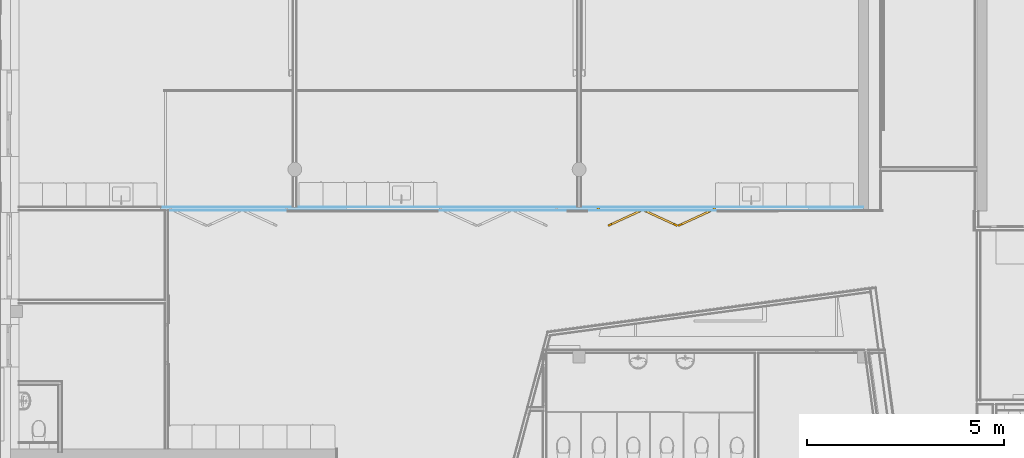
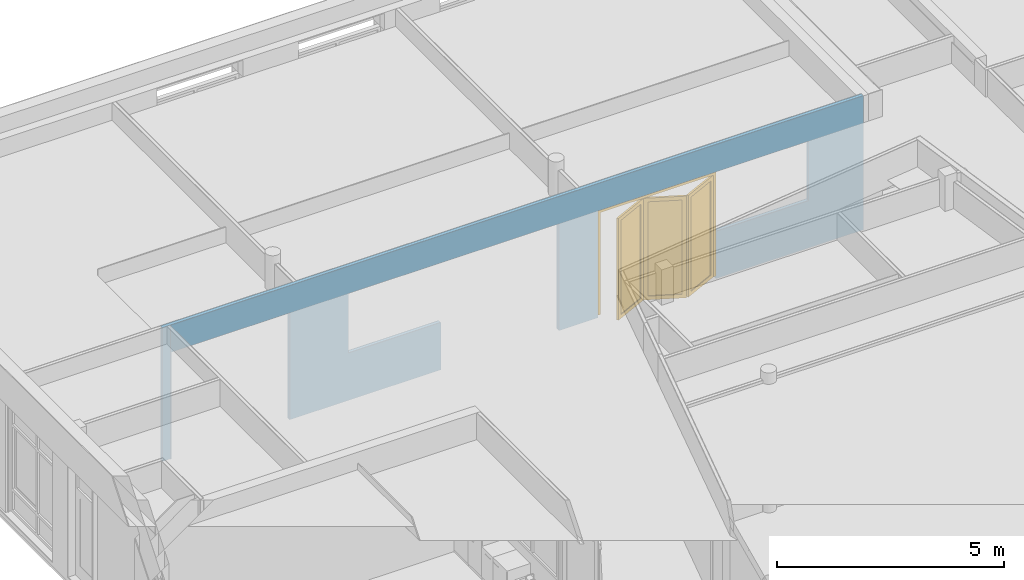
# One storey, part 38 of 167: 1 door, 5 openings, 1 element without a shape of its own, plus 3 elements that do not belong to this part.
"""IFC2X3 building model written with IfcOpenShell, lengths in millimetres."""

from ifc_helpers import new_model, entity, si_unit, converted_unit, derived_unit, money_unit, direction, frame, origin_with_axes, place, context, subcontext, project, spatial, open_shell, faceted_brep, surface_model, source, transform, mapped, material, type_object, type_shapes, element, fill, aggregate, save


model = new_model("IFC2X3")

# Units and contexts
model_context = context("Model", 3, precision=0.01, world=origin_with_axes(), true_north=direction((0.0, 1.0)))
plan_context = context("Plan", 3, precision=0.01, world=origin_with_axes(), true_north=direction((0.0, 1.0)))
body_context = subcontext(model_context, "Body", "Model", "MODEL_VIEW")
ifc_project = project(units=[si_unit("LENGTHUNIT", "METRE", prefix="MILLI"), si_unit("AREAUNIT", "SQUARE_METRE"), si_unit("VOLUMEUNIT", "CUBIC_METRE"), converted_unit("PLANEANGLEUNIT", "DEGREE", entity("IfcPlaneAngleMeasure", 0.0174532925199), si_unit("PLANEANGLEUNIT", "RADIAN"), dimensions=[0, 0, 0, 0, 0, 0, 0]), si_unit("SOLIDANGLEUNIT", "STERADIAN"), money_unit("EUR"), converted_unit("TIMEUNIT", "Year", entity("IfcTimeMeasure", 31556926.0), si_unit("TIMEUNIT", "SECOND"), dimensions=[0, 0, 1, 0, 0, 0, 0]), si_unit("MASSUNIT", "GRAM", prefix="KILO"), si_unit("THERMODYNAMICTEMPERATUREUNIT", "DEGREE_CELSIUS"), si_unit("LUMINOUSINTENSITYUNIT", "LUMEN"), si_unit("ENERGYUNIT", "JOULE", prefix="MEGA"), derived_unit("THERMALCONDUCTANCEUNIT", [(si_unit("POWERUNIT", "WATT"), 1), (si_unit("LENGTHUNIT", "METRE"), -1), (si_unit("THERMODYNAMICTEMPERATUREUNIT", "KELVIN"), -1)]), derived_unit("SPECIFICHEATCAPACITYUNIT", [(si_unit("ENERGYUNIT", "JOULE"), 1), (si_unit("MASSUNIT", "GRAM", prefix="KILO"), -1), (si_unit("THERMODYNAMICTEMPERATUREUNIT", "KELVIN"), -1)]), derived_unit("MASSDENSITYUNIT", [(si_unit("MASSUNIT", "GRAM", prefix="KILO"), 1), (si_unit("VOLUMEUNIT", "CUBIC_METRE"), -1)])], contexts=[model_context, plan_context])

# Site, building, storey
site_placement = place(None, origin_with_axes())
site = spatial("IfcSite", under=ifc_project, at=site_placement, Name="Site", CompositionType="ELEMENT")
building_placement = place(site_placement, origin_with_axes())
building = spatial("IfcBuilding", under=site, at=building_placement, Name="Naam gebouw", CompositionType="ELEMENT")
storey_placement = place(building_placement, origin_with_axes())
storey = spatial("IfcBuildingStorey", under=building, at=storey_placement, Name="Begane grond", CompositionType="ELEMENT", Elevation=0.0)

# Door
door_style = type_object("IfcDoorStyle", Name="DV1 24", ConstructionType="NOTDEFINED", OperationType="FOLDING_TO_RIGHT", ParameterTakesPrecedence=False, Sizeable=False)
shared_shape = source(origin_with_axes(), body_context, "Body", "SurfaceModel", [
    faceted_brep([(-1500.0, 0.0, 0.0), (-1433.0, 0.0, 0.0), (-1433.0, -80.0, 0.0), (-1500.0, -80.0, 0.0), (-1500.0, 0.0, 2733.0), (-1433.0, 0.0, 2733.0), (-1433.0, -80.0, 2733.0), (-1500.0, -80.0, 2733.0)], [[[0, 1, 2, 3]], [[0, 4, 5, 1]], [[1, 5, 6, 2]], [[3, 2, 6, 7]], [[4, 0, 3, 7]], [[5, 4, 7, 6]]]),
    faceted_brep([(1500.0, 0.0, 0.0), (1500.0, 0.0, 2733.0), (1500.0, -80.0, 2733.0), (1500.0, -80.0, 0.0), (1433.0, 0.0, 0.0), (1433.0, 0.0, 2733.0), (1433.0, -80.0, 2733.0), (1433.0, -80.0, 0.0)], [[[0, 1, 2, 3]], [[0, 4, 5, 1]], [[1, 5, 6, 2]], [[3, 2, 6, 7]], [[4, 0, 3, 7]], [[5, 4, 7, 6]]]),
    faceted_brep([(-1500.0, 0.0, 2800.0), (-1500.0, 0.0, 2733.0), (-1500.0, -80.0, 2733.0), (-1500.0, -80.0, 2800.0), (1500.0, 0.0, 2800.0), (1500.0, 0.0, 2733.0), (1433.0, 0.0, 2733.0), (-1433.0, 0.0, 2733.0), (-1433.0, -80.0, 2733.0), (1433.0, -80.0, 2733.0), (1500.0, -80.0, 2733.0), (1500.0, -80.0, 2800.0)], [[[0, 1, 2, 3]], [[0, 4, 5, 6, 7, 1]], [[1, 7, 8, 2]], [[3, 2, 8, 9, 10, 11]], [[4, 0, 3, 11]], [[5, 4, 11, 10]], [[6, 5, 10, 9]], [[7, 6, 9, 8]]]),
    faceted_brep([(-1433.0, 0.0, 100.0), (-1342.1674691, 41.8264429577, 100.0), (-1321.25424762, -3.58982249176, 100.0), (-1412.08677852, -45.4162654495, 100.0), (-1433.0, 0.0, 2633.0), (-1342.1674691, 41.8264429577, 2633.0), (-1321.25424762, -3.58982249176, 2633.0), (-1412.08677852, -45.4162654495, 2633.0)], [[[0, 1, 2, 3]], [[0, 4, 5, 1]], [[1, 5, 6, 2]], [[3, 2, 6, 7]], [[4, 0, 3, 7]], [[5, 4, 7, 6]]]),
    faceted_brep([(-565.246554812, 399.581951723, 100.0), (-565.246554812, 399.581951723, 2633.0), (-544.333333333, 354.165686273, 2633.0), (-544.333333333, 354.165686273, 100.0), (-656.079085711, 357.755508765, 100.0), (-656.079085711, 357.755508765, 2633.0), (-635.165864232, 312.339243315, 2633.0), (-635.165864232, 312.339243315, 100.0)], [[[0, 1, 2, 3]], [[0, 4, 5, 1]], [[1, 5, 6, 2]], [[3, 2, 6, 7]], [[4, 0, 3, 7]], [[5, 4, 7, 6]]]),
    faceted_brep([(-1433.0, 0.0, 0.0), (-565.246554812, 399.581951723, 0.0), (-544.333333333, 354.165686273, 0.0), (-1412.08677852, -45.4162654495, 0.0), (-1433.0, 0.0, 100.0), (-1342.1674691, 41.8264429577, 100.0), (-656.079085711, 357.755508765, 100.0), (-565.246554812, 399.581951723, 100.0), (-544.333333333, 354.165686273, 100.0), (-635.165864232, 312.339243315, 100.0), (-1321.25424762, -3.58982249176, 100.0), (-1412.08677852, -45.4162654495, 100.0)], [[[0, 1, 2, 3]], [[0, 4, 5, 6, 7, 1]], [[1, 7, 8, 2]], [[3, 2, 8, 9, 10, 11]], [[4, 0, 3, 11]], [[5, 4, 11, 10]], [[6, 5, 10, 9]], [[7, 6, 9, 8]]]),
    faceted_brep([(-1433.0, 0.0, 2733.0), (-1433.0, 0.0, 2633.0), (-1412.08677852, -45.4162654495, 2633.0), (-1412.08677852, -45.4162654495, 2733.0), (-565.246554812, 399.581951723, 2733.0), (-565.246554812, 399.581951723, 2633.0), (-656.079085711, 357.755508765, 2633.0), (-1342.1674691, 41.8264429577, 2633.0), (-1321.25424762, -3.58982249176, 2633.0), (-635.165864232, 312.339243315, 2633.0), (-544.333333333, 354.165686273, 2633.0), (-544.333333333, 354.165686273, 2733.0)], [[[0, 1, 2, 3]], [[0, 4, 5, 6, 7, 1]], [[1, 7, 8, 2]], [[3, 2, 8, 9, 10, 11]], [[4, 0, 3, 11]], [[5, 4, 11, 10]], [[6, 5, 10, 9]], [[7, 6, 9, 8]]]),
    surface_model("IfcShellBasedSurfaceModel", [(-648.132061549, 340.497327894, 100.0), (-1334.22044494, 24.5682620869, 100.0), (-1334.22044494, 24.5682620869, 2633.0), (-648.132061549, 340.497327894, 2633.0)], [open_shell([[[0, 1, 2, 3]]])]),
    surface_model("IfcShellBasedSurfaceModel", [(-643.112888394, 329.597424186, 100.0), (-643.112888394, 329.597424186, 2633.0), (-1329.20127178, 13.668358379, 2633.0), (-1329.20127178, 13.668358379, 100.0)], [open_shell([[[0, 1, 2, 3]]])]),
    faceted_brep([(-523.420111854, 399.581951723, 100.0), (-432.587580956, 357.755508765, 100.0), (-453.500802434, 312.339243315, 100.0), (-544.333333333, 354.165686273, 100.0), (-523.420111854, 399.581951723, 2633.0), (-432.587580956, 357.755508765, 2633.0), (-453.500802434, 312.339243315, 2633.0), (-544.333333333, 354.165686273, 2633.0)], [[[0, 1, 2, 3]], [[0, 4, 5, 1]], [[1, 5, 6, 2]], [[3, 2, 6, 7]], [[4, 0, 3, 7]], [[5, 4, 7, 6]]]),
    faceted_brep([(344.333333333, 0.0, 100.0), (344.333333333, 0.0, 2633.0), (323.420111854, -45.4162654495, 2633.0), (323.420111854, -45.4162654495, 100.0), (253.500802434, 41.8264429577, 100.0), (253.500802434, 41.8264429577, 2633.0), (232.587580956, -3.58982249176, 2633.0), (232.587580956, -3.58982249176, 100.0)], [[[0, 1, 2, 3]], [[0, 4, 5, 1]], [[1, 5, 6, 2]], [[3, 2, 6, 7]], [[4, 0, 3, 7]], [[5, 4, 7, 6]]]),
    faceted_brep([(-523.420111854, 399.581951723, 0.0), (344.333333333, 0.0, 0.0), (323.420111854, -45.4162654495, 0.0), (-544.333333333, 354.165686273, 0.0), (-523.420111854, 399.581951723, 100.0), (-432.587580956, 357.755508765, 100.0), (253.500802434, 41.8264429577, 100.0), (344.333333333, 0.0, 100.0), (323.420111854, -45.4162654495, 100.0), (232.587580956, -3.58982249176, 100.0), (-453.500802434, 312.339243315, 100.0), (-544.333333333, 354.165686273, 100.0)], [[[0, 1, 2, 3]], [[0, 4, 5, 6, 7, 1]], [[1, 7, 8, 2]], [[3, 2, 8, 9, 10, 11]], [[4, 0, 3, 11]], [[5, 4, 11, 10]], [[6, 5, 10, 9]], [[7, 6, 9, 8]]]),
    faceted_brep([(-523.420111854, 399.581951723, 2733.0), (-523.420111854, 399.581951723, 2633.0), (-544.333333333, 354.165686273, 2633.0), (-544.333333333, 354.165686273, 2733.0), (344.333333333, 0.0, 2733.0), (344.333333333, 0.0, 2633.0), (253.500802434, 41.8264429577, 2633.0), (-432.587580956, 357.755508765, 2633.0), (-453.500802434, 312.339243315, 2633.0), (232.587580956, -3.58982249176, 2633.0), (323.420111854, -45.4162654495, 2633.0), (323.420111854, -45.4162654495, 2733.0)], [[[0, 1, 2, 3]], [[0, 4, 5, 6, 7, 1]], [[1, 7, 8, 2]], [[3, 2, 8, 9, 10, 11]], [[4, 0, 3, 11]], [[5, 4, 11, 10]], [[6, 5, 10, 9]], [[7, 6, 9, 8]]]),
    surface_model("IfcShellBasedSurfaceModel", [(245.553778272, 24.5682620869, 100.0), (-440.534605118, 340.497327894, 100.0), (-440.534605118, 340.497327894, 2633.0), (245.553778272, 24.5682620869, 2633.0)], [open_shell([[[0, 1, 2, 3]]])]),
    surface_model("IfcShellBasedSurfaceModel", [(240.534605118, 13.668358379, 100.0), (240.534605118, 13.668358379, 2633.0), (-445.553778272, 329.597424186, 2633.0), (-445.553778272, 329.597424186, 100.0)], [open_shell([[[0, 1, 2, 3]]])]),
    faceted_brep([(344.333333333, 0.0, 100.0), (435.165864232, 41.8264429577, 100.0), (456.079085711, -3.58982249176, 100.0), (365.246554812, -45.4162654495, 100.0), (344.333333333, 0.0, 2633.0), (435.165864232, 41.8264429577, 2633.0), (456.079085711, -3.58982249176, 2633.0), (365.246554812, -45.4162654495, 2633.0)], [[[0, 1, 2, 3]], [[0, 4, 5, 1]], [[1, 5, 6, 2]], [[3, 2, 6, 7]], [[4, 0, 3, 7]], [[5, 4, 7, 6]]]),
    faceted_brep([(1212.08677852, 399.581951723, 100.0), (1212.08677852, 399.581951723, 2633.0), (1233.0, 354.165686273, 2633.0), (1233.0, 354.165686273, 100.0), (1121.25424762, 357.755508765, 100.0), (1121.25424762, 357.755508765, 2633.0), (1142.1674691, 312.339243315, 2633.0), (1142.1674691, 312.339243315, 100.0)], [[[0, 1, 2, 3]], [[0, 4, 5, 1]], [[1, 5, 6, 2]], [[3, 2, 6, 7]], [[4, 0, 3, 7]], [[5, 4, 7, 6]]]),
    faceted_brep([(344.333333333, 0.0, 0.0), (1212.08677852, 399.581951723, 0.0), (1233.0, 354.165686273, 0.0), (365.246554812, -45.4162654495, 0.0), (344.333333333, 0.0, 100.0), (435.165864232, 41.8264429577, 100.0), (1121.25424762, 357.755508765, 100.0), (1212.08677852, 399.581951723, 100.0), (1233.0, 354.165686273, 100.0), (1142.1674691, 312.339243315, 100.0), (456.079085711, -3.58982249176, 100.0), (365.246554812, -45.4162654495, 100.0)], [[[0, 1, 2, 3]], [[0, 4, 5, 6, 7, 1]], [[1, 7, 8, 2]], [[3, 2, 8, 9, 10, 11]], [[4, 0, 3, 11]], [[5, 4, 11, 10]], [[6, 5, 10, 9]], [[7, 6, 9, 8]]]),
    faceted_brep([(344.333333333, 0.0, 2733.0), (344.333333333, 0.0, 2633.0), (365.246554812, -45.4162654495, 2633.0), (365.246554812, -45.4162654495, 2733.0), (1212.08677852, 399.581951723, 2733.0), (1212.08677852, 399.581951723, 2633.0), (1121.25424762, 357.755508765, 2633.0), (435.165864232, 41.8264429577, 2633.0), (456.079085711, -3.58982249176, 2633.0), (1142.1674691, 312.339243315, 2633.0), (1233.0, 354.165686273, 2633.0), (1233.0, 354.165686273, 2733.0)], [[[0, 1, 2, 3]], [[0, 4, 5, 6, 7, 1]], [[1, 7, 8, 2]], [[3, 2, 8, 9, 10, 11]], [[4, 0, 3, 11]], [[5, 4, 11, 10]], [[6, 5, 10, 9]], [[7, 6, 9, 8]]]),
    surface_model("IfcShellBasedSurfaceModel", [(1129.20127178, 340.497327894, 100.0), (443.112888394, 24.5682620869, 100.0), (443.112888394, 24.5682620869, 2633.0), (1129.20127178, 340.497327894, 2633.0)], [open_shell([[[0, 1, 2, 3]]])]),
    surface_model("IfcShellBasedSurfaceModel", [(1134.22044494, 329.597424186, 100.0), (1134.22044494, 329.597424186, 2633.0), (448.132061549, 13.668358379, 2633.0), (448.132061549, 13.668358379, 100.0)], [open_shell([[[0, 1, 2, 3]]])]),
])
type_shapes(door_style, [shared_shape])
wall_placement = place(storey_placement, frame((3950.0, 42200.0, -100.0), z_axis=(0.0, 0.0, 1.0), x_axis=(1.0, 0.0, 0.0)))
opening_4_placement = place(wall_placement, frame((12405.2814686, 0.0, 100.0), z_axis=(0.0, 0.0, 1.0), x_axis=(1.0, 0.0, 0.0)))
door_placement = place(opening_4_placement, frame((1500.0, 0.0, 0.0), z_axis=(0.0, 0.0, 1.0), x_axis=(-1.0, 0.0, 0.0)))
door = element("IfcDoor", 1, at=door_placement, inside=storey, type_object=door_style, Name="32_Deur_Si-02s", ObjectType="DOOR", OverallHeight=2800.0, OverallWidth=3000.0, context=body_context, shape_type="MappedRepresentation", body=[
    mapped(shared_shape, transform((1500.0, 50.0, 0.0))),
])

# Wall, openings
wall_type = type_object("IfcWallType", Name="_TenW_22_Metalstud 100 enkel gipsvezelplaat 100", PredefinedType="NOTDEFINED")
wall = element("IfcWall", 2, at=wall_placement, inside=storey, type_object=wall_type, Name="22_Wand_Wand-x")
opening_1_placement = place(wall_placement, frame((5740.0, 0.0, 1300.0), z_axis=(0.0, 0.0, 1.0), x_axis=(1.0, 0.0, 0.0)))
element("IfcOpeningElement", 3, at=opening_1_placement, cuts=wall, Name="31_Raam_Hi-53", context=body_context, shape_type="Brep", body=[
    faceted_brep([(-1175.0, 100.0, 1600.0), (-1175.0, 100.0, 0.0), (-1175.0, -200.0, 0.0), (-1175.0, -200.0, 1600.0), (1175.0, 100.0, 1600.0), (1175.0, 100.0, 0.0), (1175.0, -200.0, 0.0), (1175.0, -200.0, 1600.0)], [[[0, 1, 2, 3]], [[0, 4, 5, 1]], [[1, 5, 6, 2]], [[3, 2, 6, 7]], [[4, 0, 3, 7]], [[5, 4, 7, 6]]]),
])
opening_2_placement = place(wall_placement, frame((15080.2814686, 0.0, 1300.0), z_axis=(0.0, 0.0, 1.0), x_axis=(1.0, 0.0, 0.0)))
element("IfcOpeningElement", 4, at=opening_2_placement, cuts=wall, Name="31_Raam_Hi-53", context=body_context, shape_type="Brep", body=[
    faceted_brep([(1175.0, -200.0, 1600.0), (1175.0, -200.0, 0.0), (1175.0, 100.0, 0.0), (1175.0, 100.0, 1600.0), (-1175.0, -200.0, 1600.0), (-1175.0, -200.0, 0.0), (-1175.0, 100.0, 0.0), (-1175.0, 100.0, 1600.0)], [[[0, 1, 2, 3]], [[0, 4, 5, 1]], [[1, 5, 6, 2]], [[3, 2, 6, 7]], [[4, 0, 3, 7]], [[5, 4, 7, 6]]]),
])
opening_3_placement = place(wall_placement, frame((8415.0, 0.0, 100.0), z_axis=(0.0, 0.0, 1.0), x_axis=(1.0, 0.0, 0.0)))
element("IfcOpeningElement", 5, at=opening_3_placement, cuts=wall, Name="32_Deur_Si-02", context=body_context, shape_type="Brep", body=[
    faceted_brep([(1500.0, -200.0, 2800.0), (1500.0, -200.0, 0.0), (1500.0, 100.0, 0.0), (1500.0, 100.0, 2800.0), (-1500.0, -200.0, 2800.0), (-1500.0, -200.0, 0.0), (-1500.0, 100.0, 0.0), (-1500.0, 100.0, 2800.0)], [[[0, 1, 2, 3]], [[0, 4, 5, 1]], [[1, 5, 6, 2]], [[3, 2, 6, 7]], [[4, 0, 3, 7]], [[5, 4, 7, 6]]]),
])
opening_4 = element("IfcOpeningElement", 6, at=opening_4_placement, cuts=wall, Name="32_Deur_Si-02s", context=body_context, shape_type="Brep", body=[
    faceted_brep([(-1500.0, 100.0, 2800.0), (-1500.0, 100.0, 0.0), (-1500.0, -200.0, 0.0), (-1500.0, -200.0, 2800.0), (1500.0, 100.0, 2800.0), (1500.0, 100.0, 0.0), (1500.0, -200.0, 0.0), (1500.0, -200.0, 2800.0)], [[[0, 1, 2, 3]], [[0, 4, 5, 1]], [[1, 5, 6, 2]], [[3, 2, 6, 7]], [[4, 0, 3, 7]], [[5, 4, 7, 6]]]),
])

fill(opening_4, door)

# Opening
opening_5_placement = place(wall_placement, frame((1575.0, 0.0, 100.0), z_axis=(0.0, 0.0, 1.0), x_axis=(1.0, 0.0, 0.0)))
element("IfcOpeningElement", 7, at=opening_5_placement, cuts=wall, Name="32_Deur_Si-01", context=body_context, shape_type="Brep", body=[
    faceted_brep([(1500.0, -200.0, 2800.0), (1500.0, -200.0, 0.0), (1500.0, 100.0, 0.0), (1500.0, 100.0, 2800.0), (-1500.0, -200.0, 2800.0), (-1500.0, -200.0, 0.0), (-1500.0, 100.0, 0.0), (-1500.0, 100.0, 2800.0)], [[[0, 1, 2, 3]], [[0, 4, 5, 1]], [[1, 5, 6, 2]], [[3, 2, 6, 7]], [[4, 0, 3, 7]], [[5, 4, 7, 6]]]),
])

# Building element part
ifc_material_1 = material(Name="Gipsplaat watervast")
building_element_part_1_placement = place(wall_placement, origin_with_axes())
building_element_part_1 = element("IfcBuildingElementPart", 8, at=building_element_part_1_placement, material=ifc_material_1, Name="Gipsplaat watervast", context=body_context, shape_type="Brep", body=[
    faceted_brep([(75.0, 50.0, 2900.0), (75.0, 50.0, 100.0), (75.0, 50.0, 30.0), (-150.0, 50.0, 30.0), (-150.0, 50.0, 3630.0), (3212.5, 50.0, 3630.0), (3212.5, 50.0, 30.0), (3075.0, 50.0, 30.0), (3075.0, 50.0, 100.0), (3075.0, 50.0, 2900.0), (75.0, 37.5, 2900.0), (75.0, 37.5, 100.0), (75.0, 37.5, 30.0), (-150.0, 37.5, 30.0), (-150.0, 37.5, 3630.0), (3212.5, 37.5, 3630.0), (3212.5, 37.5, 30.0), (3075.0, 37.5, 30.0), (3075.0, 37.5, 100.0), (3075.0, 37.5, 2900.0)], [[[0, 1, 2, 3, 4, 5, 6, 7, 8, 9]], [[1, 0, 10, 11]], [[1, 11, 12, 2]], [[12, 13, 3, 2]], [[13, 14, 4, 3]], [[4, 14, 15, 5]], [[6, 5, 15, 16]], [[7, 6, 16, 17]], [[18, 8, 7, 17]], [[9, 8, 18, 19]], [[0, 9, 19, 10]], [[19, 18, 17, 16, 15, 14, 13, 12, 11, 10]]]),
    faceted_brep([(10905.2814686, 50.0, 2900.0), (10905.2814686, 50.0, 100.0), (10905.2814686, 50.0, 30.0), (10487.5, 50.0, 30.0), (10487.5, 50.0, 3630.0), (17650.0, 50.0, 3630.0), (17650.0, 50.0, 30.0), (13905.2814686, 50.0, 30.0), (13905.2814686, 50.0, 100.0), (13905.2814686, 50.0, 1300.0), (16255.2814686, 50.0, 1300.0), (16255.2814686, 50.0, 2900.0), (13905.2814686, 50.0, 2900.0), (10905.2814686, 37.5, 2900.0), (10905.2814686, 37.5, 100.0), (10905.2814686, 37.5, 30.0), (10487.5, 37.5, 30.0), (10487.5, 37.5, 3630.0), (17650.0, 37.5, 3630.0), (17650.0, 37.5, 30.0), (13905.2814686, 37.5, 30.0), (13905.2814686, 37.5, 100.0), (13905.2814686, 37.5, 1300.0), (16255.2814686, 37.5, 1300.0), (16255.2814686, 37.5, 2900.0), (13905.2814686, 37.5, 2900.0)], [[[0, 1, 2, 3, 4, 5, 6, 7, 8, 9, 10, 11, 12]], [[1, 0, 13, 14]], [[1, 14, 15, 2]], [[16, 3, 2, 15]], [[17, 4, 3, 16]], [[18, 5, 4, 17]], [[5, 18, 19, 6]], [[6, 19, 20, 7]], [[21, 8, 7, 20]], [[22, 9, 8, 21]], [[9, 22, 23, 10]], [[10, 23, 24, 11]], [[25, 13, 0, 12, 11, 24]], [[13, 25, 24, 23, 22, 21, 20, 19, 18, 17, 16, 15, 14]]]),
    faceted_brep([(6915.0, 37.5, 1300.0), (6915.0, 50.0, 1300.0), (4565.0, 50.0, 1300.0), (4565.0, 37.5, 1300.0), (6915.0, 50.0, 100.0), (6915.0, 37.5, 100.0), (9915.0, 50.0, 2900.0), (6915.0, 50.0, 2900.0), (4565.0, 50.0, 2900.0), (6915.0, 50.0, 30.0), (3287.5, 50.0, 30.0), (3287.5, 50.0, 3630.0), (10412.5, 50.0, 3630.0), (10412.5, 50.0, 30.0), (9915.0, 50.0, 30.0), (9915.0, 50.0, 100.0), (4565.0, 37.5, 2900.0), (9915.0, 37.5, 2900.0), (9915.0, 37.5, 100.0), (9915.0, 37.5, 30.0), (10412.5, 37.5, 30.0), (10412.5, 37.5, 3630.0), (3287.5, 37.5, 3630.0), (3287.5, 37.5, 30.0), (6915.0, 37.5, 30.0), (6915.0, 37.5, 2900.0)], [[[0, 1, 2, 3]], [[4, 1, 0, 5]], [[6, 7, 8, 2, 1, 4, 9, 10, 11, 12, 13, 14, 15]], [[8, 16, 3, 2]], [[17, 18, 19, 20, 21, 22, 23, 24, 5, 0, 3, 16, 25]], [[4, 5, 24, 9]], [[7, 6, 17, 25, 16, 8]], [[23, 10, 9, 24]], [[22, 11, 10, 23]], [[21, 12, 11, 22]], [[12, 21, 20, 13]], [[13, 20, 19, 14]], [[18, 15, 14, 19]], [[6, 15, 18, 17]]]),
])

ifc_material_2 = material(Name="Isolatie - Steenwol zacht")
building_element_part_2_placement = place(wall_placement, origin_with_axes())
building_element_part_2 = element("IfcBuildingElementPart", 9, at=building_element_part_2_placement, material=ifc_material_2, Name="Isolatie - Steenwol zacht", context=body_context, shape_type="Brep", body=[
    faceted_brep([(75.0, 37.5, 2900.0), (75.0, 37.5, 100.0), (75.0, 37.5, 30.0), (-150.0, 37.5, 30.0), (-150.0, 37.5, 3630.0), (17650.0, 37.5, 3630.0), (17650.0, 37.5, 30.0), (13905.2814686, 37.5, 30.0), (13905.2814686, 37.5, 100.0), (13905.2814686, 37.5, 1300.0), (16255.2814686, 37.5, 1300.0), (16255.2814686, 37.5, 2900.0), (10905.2814686, 37.5, 2900.0), (10905.2814686, 37.5, 100.0), (10905.2814686, 37.5, 30.0), (9915.0, 37.5, 30.0), (9915.0, 37.5, 100.0), (9915.0, 37.5, 2900.0), (4565.0, 37.5, 2900.0), (4565.0, 37.5, 1300.0), (6915.0, 37.5, 1300.0), (6915.0, 37.5, 100.0), (6915.0, 37.5, 30.0), (3075.0, 37.5, 30.0), (3075.0, 37.5, 100.0), (3075.0, 37.5, 2900.0), (75.0, -37.5, 2900.0), (75.0, -37.5, 100.0), (75.0, -37.5, 30.0), (-150.0, -37.5, 30.0), (-150.0, -37.5, 3630.0), (17650.0, -37.5, 3630.0), (17650.0, -37.5, 30.0), (13905.2814686, -37.5, 30.0), (13905.2814686, -37.5, 100.0), (13905.2814686, -37.5, 1300.0), (16255.2814686, -37.5, 1300.0), (16255.2814686, -37.5, 2900.0), (10905.2814686, -37.5, 2900.0), (10905.2814686, -37.5, 100.0), (10905.2814686, -37.5, 30.0), (9915.0, -37.5, 30.0), (9915.0, -37.5, 100.0), (9915.0, -37.5, 2900.0), (4565.0, -37.5, 2900.0), (4565.0, -37.5, 1300.0), (6915.0, -37.5, 1300.0), (6915.0, -37.5, 100.0), (6915.0, -37.5, 30.0), (3075.0, -37.5, 30.0), (3075.0, -37.5, 100.0), (3075.0, -37.5, 2900.0)], [[[0, 1, 2, 3, 4, 5, 6, 7, 8, 9, 10, 11, 12, 13, 14, 15, 16, 17, 18, 19, 20, 21, 22, 23, 24, 25]], [[1, 0, 26, 27]], [[1, 27, 28, 2]], [[28, 29, 3, 2]], [[29, 30, 4, 3]], [[4, 30, 31, 5]], [[6, 5, 31, 32]], [[7, 6, 32, 33]], [[8, 7, 33, 34]], [[9, 8, 34, 35]], [[35, 36, 10, 9]], [[37, 11, 10, 36]], [[12, 11, 37, 38]], [[12, 38, 39, 13]], [[39, 40, 14, 13]], [[40, 41, 15, 14]], [[15, 41, 42, 16]], [[42, 43, 17, 16]], [[44, 18, 17, 43]], [[19, 18, 44, 45]], [[19, 45, 46, 20]], [[46, 47, 21, 20]], [[48, 22, 21, 47]], [[48, 49, 23, 22]], [[50, 24, 23, 49]], [[25, 24, 50, 51]], [[0, 25, 51, 26]], [[51, 50, 49, 48, 47, 46, 45, 44, 43, 42, 41, 40, 39, 38, 37, 36, 35, 34, 33, 32, 31, 30, 29, 28, 27, 26]]]),
])

building_element_part_3_placement = place(wall_placement, origin_with_axes())
building_element_part_3 = element("IfcBuildingElementPart", 10, at=building_element_part_3_placement, material=ifc_material_1, Name="Gipsplaat watervast", context=body_context, shape_type="Brep", body=[
    faceted_brep([(75.0, -37.5, 2900.0), (75.0, -37.5, 100.0), (75.0, -37.5, 30.0), (50.0, -37.5, 30.0), (50.0, -37.5, 3630.0), (17650.0, -37.5, 3630.0), (17650.0, -37.5, 30.0), (13905.2814686, -37.5, 30.0), (13905.2814686, -37.5, 100.0), (13905.2814686, -37.5, 1300.0), (16255.2814686, -37.5, 1300.0), (16255.2814686, -37.5, 2900.0), (10905.2814686, -37.5, 2900.0), (10905.2814686, -37.5, 100.0), (10905.2814686, -37.5, 30.0), (9915.0, -37.5, 30.0), (9915.0, -37.5, 100.0), (9915.0, -37.5, 2900.0), (4565.0, -37.5, 2900.0), (4565.0, -37.5, 1300.0), (6915.0, -37.5, 1300.0), (6915.0, -37.5, 100.0), (6915.0, -37.5, 30.0), (3075.0, -37.5, 30.0), (3075.0, -37.5, 100.0), (3075.0, -37.5, 2900.0), (75.0, -50.0, 2900.0), (75.0, -50.0, 100.0), (75.0, -50.0, 30.0), (50.0, -50.0, 30.0), (50.0, -50.0, 3630.0), (17650.0, -50.0, 3630.0), (17650.0, -50.0, 30.0), (13905.2814686, -50.0, 30.0), (13905.2814686, -50.0, 100.0), (13905.2814686, -50.0, 1300.0), (16255.2814686, -50.0, 1300.0), (16255.2814686, -50.0, 2900.0), (10905.2814686, -50.0, 2900.0), (10905.2814686, -50.0, 100.0), (10905.2814686, -50.0, 30.0), (9915.0, -50.0, 30.0), (9915.0, -50.0, 100.0), (9915.0, -50.0, 2900.0), (4565.0, -50.0, 2900.0), (4565.0, -50.0, 1300.0), (6915.0, -50.0, 1300.0), (6915.0, -50.0, 100.0), (6915.0, -50.0, 30.0), (3075.0, -50.0, 30.0), (3075.0, -50.0, 100.0), (3075.0, -50.0, 2900.0)], [[[0, 1, 2, 3, 4, 5, 6, 7, 8, 9, 10, 11, 12, 13, 14, 15, 16, 17, 18, 19, 20, 21, 22, 23, 24, 25]], [[1, 0, 26, 27]], [[1, 27, 28, 2]], [[28, 29, 3, 2]], [[29, 30, 4, 3]], [[4, 30, 31, 5]], [[6, 5, 31, 32]], [[7, 6, 32, 33]], [[8, 7, 33, 34]], [[9, 8, 34, 35]], [[35, 36, 10, 9]], [[37, 11, 10, 36]], [[12, 11, 37, 38]], [[12, 38, 39, 13]], [[39, 40, 14, 13]], [[40, 41, 15, 14]], [[15, 41, 42, 16]], [[42, 43, 17, 16]], [[44, 18, 17, 43]], [[19, 18, 44, 45]], [[19, 45, 46, 20]], [[46, 47, 21, 20]], [[48, 22, 21, 47]], [[48, 49, 23, 22]], [[50, 24, 23, 49]], [[25, 24, 50, 51]], [[0, 25, 51, 26]], [[51, 50, 49, 48, 47, 46, 45, 44, 43, 42, 41, 40, 39, 38, 37, 36, 35, 34, 33, 32, 31, 30, 29, 28, 27, 26]]]),
])

aggregate(wall, [building_element_part_1, building_element_part_2, building_element_part_3])

save(model, "model.ifc")
